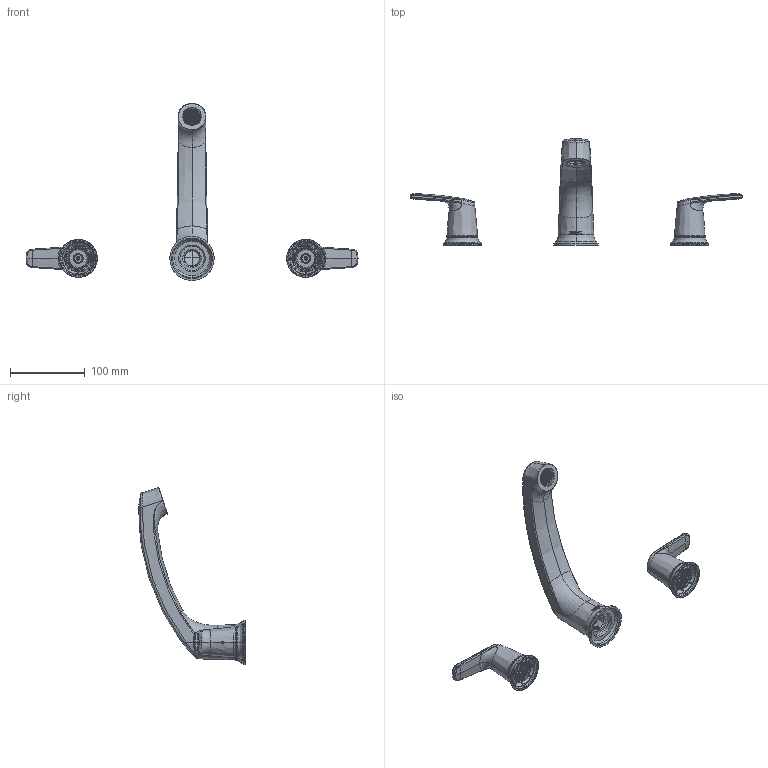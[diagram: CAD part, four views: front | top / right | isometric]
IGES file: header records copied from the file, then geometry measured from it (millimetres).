
Start section: SolidWorks IGES file using analytic representation for surfaces
Global section: file name: C:\Users\tzhang10\Desktop\sku_T5990series_igs.IGS; native system: SolidWorks 2023; preprocessor: SolidWorks 2023; author: tzhang10; date: 250626.142033; units: inch
Bounding box: 444.8 x 142.5 x 237.37 mm (x, y, z)
Volume: 189217.1 mm3; surface area: 130761.4 mm2
Topology: 8 solids, 8 shells, 6784 faces, 17515 edges, 11170 vertices
Faces by surface type: plane 4409, revolution 1838, bspline 537
